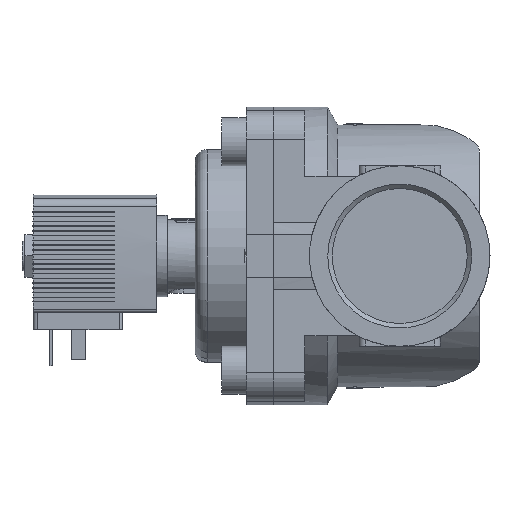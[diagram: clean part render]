
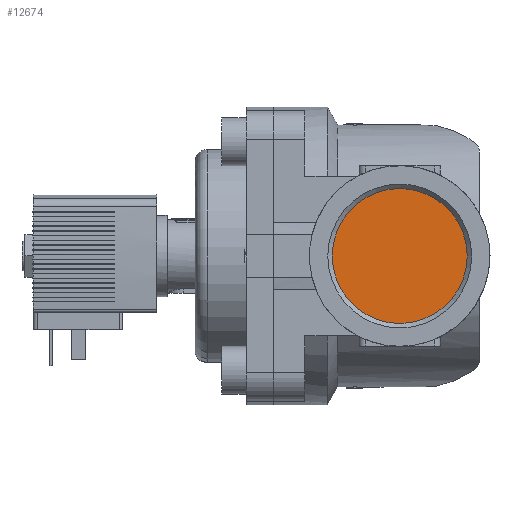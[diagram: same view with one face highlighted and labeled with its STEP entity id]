
A CAD part, left-side view. The second image highlights one B-rep face of the part: STEP entity #12674.
In plain terms, the highlighted planar face has unit normal (-1, 0, 0).
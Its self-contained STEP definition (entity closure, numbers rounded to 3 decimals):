
#3667=ORIENTED_EDGE('',*,*,#6076,.F.);
#6076=EDGE_CURVE('',#7381,#7381,#8127,.T.);
#7381=VERTEX_POINT('',#18204);
#8127=CIRCLE('',#13424,22.423);
#8509=EDGE_LOOP('',(#3667));
#9094=FACE_BOUND('',#8509,.T.);
#9569=PLANE('',#13425);
#12674=ADVANCED_FACE('',(#9094),#9569,.T.);
#13424=AXIS2_PLACEMENT_3D('',#18203,#15066,#15067);
#13425=AXIS2_PLACEMENT_3D('',#18205,#15068,#15069);
#15066=DIRECTION('',(1.,0.,0.));
#15067=DIRECTION('',(0.,0.,-1.));
#15068=DIRECTION('',(-1.,0.,0.));
#15069=DIRECTION('',(0.,0.,1.));
#18203=CARTESIAN_POINT('',(-36.,0.,0.));
#18204=CARTESIAN_POINT('',(-36.,0.,-22.423));
#18205=CARTESIAN_POINT('',(-36.,22.423,0.));
